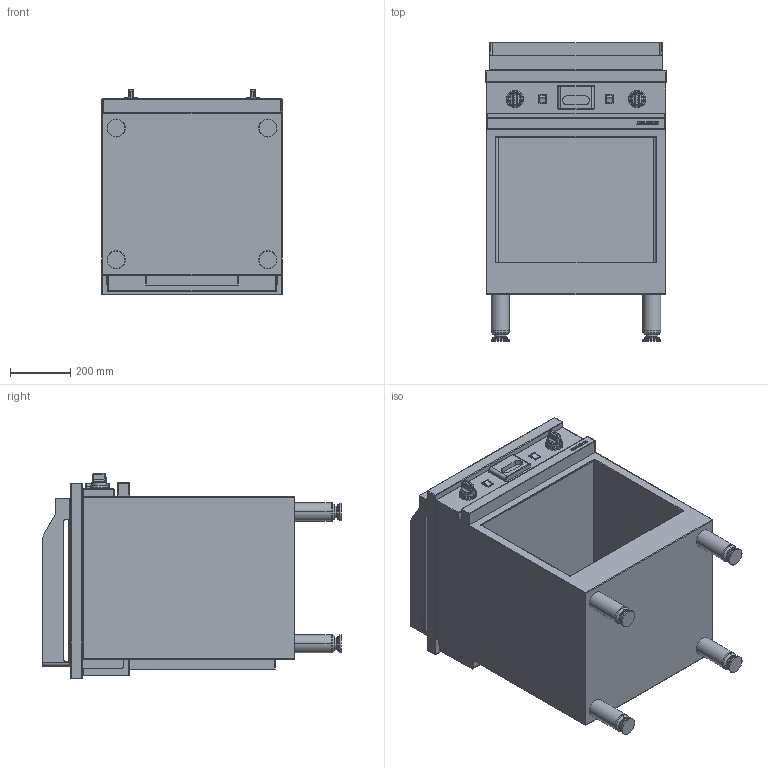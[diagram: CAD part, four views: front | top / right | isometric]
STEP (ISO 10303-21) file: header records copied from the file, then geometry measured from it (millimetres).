
FILE_DESCRIPTION((''),'2;1');
FILE_NAME('CME610SLKC_EXPORT_STEP_ASM','2017-11-22T',('r.avril'),(''),'PRO/ENGINEER BY PARAMETRIC TECHNOLOGY CORPORATION, 2014200','PRO/ENGINEER BY PARAMETRIC TECHNOLOGY CORPORATION, 2014200','');
FILE_SCHEMA(('AP203_CONFIGURATION_CONTROLLED_3D_DESIGN_OF_MECHANICAL_PARTS_AND_ASSEMBLIES_MIM_LF { 1 0 10303 403 2 1 2 }'));
Length unit declared in the file: millimetre
Products named in the file (11): MODULES_AMB_600_EXPORT_STEP; TABLE_610_GRILLADE; TABLE_610_GRILLADE_ASM; TIROIR_GRILLADE_EXPORT_STEP; MANETTE_AMB_EXPORT_STEP; BASCULEUR_AMB_EXPORT_DXF; CEINTURE_PLAQUE_GRILLADE_600; 50288800; 50293100; 65070008_ASM; CME610SLKC_EXPORT_STEP_ASM
Assembly tree (12 placements, depth 3):
  CME610SLKC_EXPORT_STEP_ASM
    MODULES_AMB_600_EXPORT_STEP
    TABLE_610_GRILLADE_ASM
      TABLE_610_GRILLADE
    TIROIR_GRILLADE_EXPORT_STEP
    MANETTE_AMB_EXPORT_STEP  x2
    BASCULEUR_AMB_EXPORT_DXF  x2
    65070008_ASM
      CEINTURE_PLAQUE_GRILLADE_600
      50288800
      50293100
Bounding box: 600 x 992.43 x 682.5 mm (x, y, z)
Volume: 82373420.8 mm3; surface area: 6392197 mm2
Topology: 18 solids, 44 shells, 665 faces, 2191 edges, 1834 vertices
Faces by surface type: cylinder 247, plane 244, cone 54, sphere 48, torus 48, bspline 24
Entity records: 29689 total; most frequent: CARTESIAN_POINT 6737, DIRECTION 3722, ORIENTED_EDGE 3084, EDGE_CURVE 1783, AXIS2_PLACEMENT_3D 1326, VERTEX_POINT 1263, VECTOR 1037, LINE 1037
